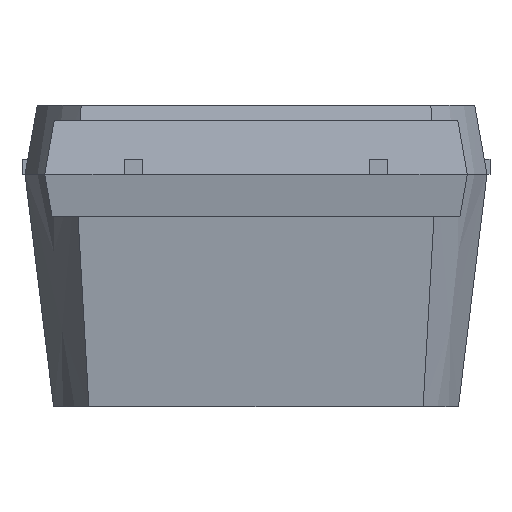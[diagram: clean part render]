
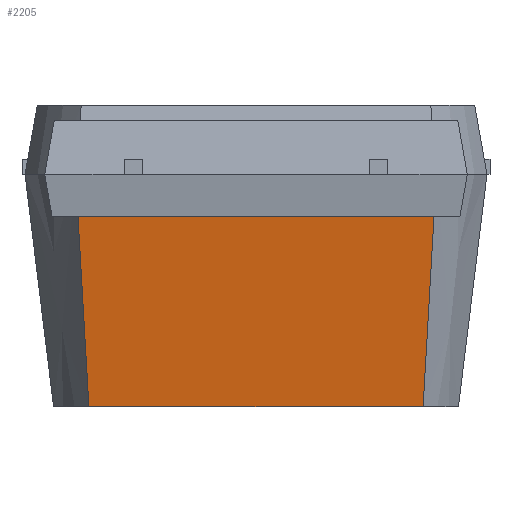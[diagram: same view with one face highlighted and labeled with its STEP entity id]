
A CAD part, front view. The second image highlights one B-rep face of the part: STEP entity #2205.
In plain terms, the highlighted planar face has unit normal (0, -0.993, -0.122).
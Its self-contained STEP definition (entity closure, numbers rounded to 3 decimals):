
#13 = VERTEX_POINT ( 'NONE', #853 ) ;
#97 = VECTOR ( 'NONE', #308, 1000. ) ;
#148 = FACE_OUTER_BOUND ( 'NONE', #453, .T. ) ;
#240 = VERTEX_POINT ( 'NONE', #1007 ) ;
#273 = EDGE_CURVE ( 'NONE', #3615, #1620, #750, .T. ) ;
#306 = CARTESIAN_POINT ( 'NONE',  ( 1266.449, -128.873, -3.85 ) ) ;
#308 = DIRECTION ( 'NONE',  ( 1., 0., 0. ) ) ;
#316 = B_SPLINE_CURVE_WITH_KNOTS ( 'NONE', 3,
 ( #4095, #2524, #581, #3695 ),
 .UNSPECIFIED., .F., .F.,
 ( 4, 4 ),
 ( 0., 0.004 ),
 .UNSPECIFIED. ) ;
#351 = CARTESIAN_POINT ( 'NONE',  ( 1260.695, -129.346, 0. ) ) ;
#436 = CARTESIAN_POINT ( 'NONE',  ( 1260.695, -129.346, 0. ) ) ;
#453 = EDGE_LOOP ( 'NONE', ( #3925, #2139, #1554, #3818, #3868, #3869, #4120, #1819, #2415, #3878 ) ) ;
#537 = CARTESIAN_POINT ( 'NONE',  ( 1260.695, -129.346, 0. ) ) ;
#581 = CARTESIAN_POINT ( 'NONE',  ( 1266.599, -129.189, -1.283 ) ) ;
#601 = CARTESIAN_POINT ( 'NONE',  ( 1260.765, -129.189, -1.283 ) ) ;
#750 = LINE ( 'NONE', #3464, #1613 ) ;
#853 = CARTESIAN_POINT ( 'NONE',  ( 1264.698, -129.346, 0. ) ) ;
#933 = VERTEX_POINT ( 'NONE', #1585 ) ;
#985 = CARTESIAN_POINT ( 'NONE',  ( 1260.695, -129.346, 0. ) ) ;
#1007 = CARTESIAN_POINT ( 'NONE',  ( 1266.669, -129.346, 0. ) ) ;
#1030 = LINE ( 'NONE', #1280, #4437 ) ;
#1105 = VERTEX_POINT ( 'NONE', #1348 ) ;
#1142 = EDGE_CURVE ( 'NONE', #1620, #240, #316, .T. ) ;
#1280 = CARTESIAN_POINT ( 'NONE',  ( 1260.695, -129.346, 0. ) ) ;
#1298 = EDGE_CURVE ( 'NONE', #933, #1673, #3377, .T. ) ;
#1348 = CARTESIAN_POINT ( 'NONE',  ( 1265.206, -129.346, 0. ) ) ;
#1514 = CARTESIAN_POINT ( 'NONE',  ( 1260.695, -129.346, 0. ) ) ;
#1527 = CARTESIAN_POINT ( 'NONE',  ( 1263.428, -129.346, 0. ) ) ;
#1531 = VECTOR ( 'NONE', #2511, 1000. ) ;
#1554 = ORIENTED_EDGE ( 'NONE', *, *, #273, .T. ) ;
#1585 = CARTESIAN_POINT ( 'NONE',  ( 1262.666, -129.346, 0. ) ) ;
#1613 = VECTOR ( 'NONE', #4261, 1000. ) ;
#1620 = VERTEX_POINT ( 'NONE', #306 ) ;
#1632 = CARTESIAN_POINT ( 'NONE',  ( 1260.915, -128.873, -3.85 ) ) ;
#1673 = VERTEX_POINT ( 'NONE', #4647 ) ;
#1711 = LINE ( 'NONE', #436, #4748 ) ;
#1819 = ORIENTED_EDGE ( 'NONE', *, *, #2544, .T. ) ;
#1950 = DIRECTION ( 'NONE',  ( -1., 0., 0. ) ) ;
#1980 = LINE ( 'NONE', #4471, #2739 ) ;
#2007 = EDGE_CURVE ( 'NONE', #1105, #240, #1980, .T. ) ;
#2041 = EDGE_CURVE ( 'NONE', #2338, #1673, #2613, .T. ) ;
#2139 = ORIENTED_EDGE ( 'NONE', *, *, #3277, .F. ) ;
#2141 = CARTESIAN_POINT ( 'NONE',  ( 1260.839, -129.031, -2.567 ) ) ;
#2205 = ADVANCED_FACE ( 'NONE', ( #148 ), #2315, .T. ) ;
#2268 = DIRECTION ( 'NONE',  ( 0., 0.122, -0.993 ) ) ;
#2315 = PLANE ( 'NONE',  #4709 ) ;
#2321 = VERTEX_POINT ( 'NONE', #1527 ) ;
#2338 = VERTEX_POINT ( 'NONE', #351 ) ;
#2415 = ORIENTED_EDGE ( 'NONE', *, *, #3242, .F. ) ;
#2511 = DIRECTION ( 'NONE',  ( 1., 0., 0. ) ) ;
#2524 = CARTESIAN_POINT ( 'NONE',  ( 1266.526, -129.031, -2.567 ) ) ;
#2541 = CARTESIAN_POINT ( 'NONE',  ( 1260.915, -128.873, -3.85 ) ) ;
#2544 = EDGE_CURVE ( 'NONE', #4990, #2321, #1711, .T. ) ;
#2613 = LINE ( 'NONE', #537, #1531 ) ;
#2688 = CARTESIAN_POINT ( 'NONE',  ( 1263.936, -129.346, 0. ) ) ;
#2739 = VECTOR ( 'NONE', #3259, 1000. ) ;
#2914 = VECTOR ( 'NONE', #4199, 1000. ) ;
#2927 = EDGE_CURVE ( 'NONE', #4990, #13, #3218, .T. ) ;
#3015 = VECTOR ( 'NONE', #4295, 1000. ) ;
#3218 = LINE ( 'NONE', #4271, #97 ) ;
#3242 = EDGE_CURVE ( 'NONE', #933, #2321, #1030, .T. ) ;
#3259 = DIRECTION ( 'NONE',  ( 1., 0., 0. ) ) ;
#3277 = EDGE_CURVE ( 'NONE', #3615, #2338, #4542, .T. ) ;
#3377 = LINE ( 'NONE', #1514, #3015 ) ;
#3464 = CARTESIAN_POINT ( 'NONE',  ( 1263.682, -128.873, -3.85 ) ) ;
#3615 = VERTEX_POINT ( 'NONE', #1632 ) ;
#3695 = CARTESIAN_POINT ( 'NONE',  ( 1266.669, -129.346, 0. ) ) ;
#3818 = ORIENTED_EDGE ( 'NONE', *, *, #1142, .T. ) ;
#3868 = ORIENTED_EDGE ( 'NONE', *, *, #2007, .F. ) ;
#3869 = ORIENTED_EDGE ( 'NONE', *, *, #3934, .F. ) ;
#3878 = ORIENTED_EDGE ( 'NONE', *, *, #1298, .T. ) ;
#3925 = ORIENTED_EDGE ( 'NONE', *, *, #2041, .F. ) ;
#3934 = EDGE_CURVE ( 'NONE', #13, #1105, #4996, .T. ) ;
#3956 = CARTESIAN_POINT ( 'NONE',  ( 1260.695, -129.346, 0. ) ) ;
#4055 = DIRECTION ( 'NONE',  ( 1., 0., 0. ) ) ;
#4095 = CARTESIAN_POINT ( 'NONE',  ( 1266.449, -128.873, -3.85 ) ) ;
#4120 = ORIENTED_EDGE ( 'NONE', *, *, #2927, .F. ) ;
#4199 = DIRECTION ( 'NONE',  ( 1., 0., 0. ) ) ;
#4214 = CARTESIAN_POINT ( 'NONE',  ( 1260.695, -129.346, 0. ) ) ;
#4261 = DIRECTION ( 'NONE',  ( 1., 0., 0. ) ) ;
#4271 = CARTESIAN_POINT ( 'NONE',  ( 1260.695, -129.346, 0. ) ) ;
#4295 = DIRECTION ( 'NONE',  ( -1., 0., 0. ) ) ;
#4437 = VECTOR ( 'NONE', #4055, 1000. ) ;
#4471 = CARTESIAN_POINT ( 'NONE',  ( 1260.695, -129.346, 0. ) ) ;
#4542 = B_SPLINE_CURVE_WITH_KNOTS ( 'NONE', 3,
 ( #2541, #2141, #601, #985 ),
 .UNSPECIFIED., .F., .F.,
 ( 4, 4 ),
 ( 0., 0.004 ),
 .UNSPECIFIED. ) ;
#4647 = CARTESIAN_POINT ( 'NONE',  ( 1262.158, -129.346, 0. ) ) ;
#4670 = DIRECTION ( 'NONE',  ( 0., -0.993, -0.122 ) ) ;
#4709 = AXIS2_PLACEMENT_3D ( 'NONE', #4214, #4670, #2268 ) ;
#4748 = VECTOR ( 'NONE', #1950, 1000. ) ;
#4990 = VERTEX_POINT ( 'NONE', #2688 ) ;
#4996 = LINE ( 'NONE', #3956, #2914 ) ;
